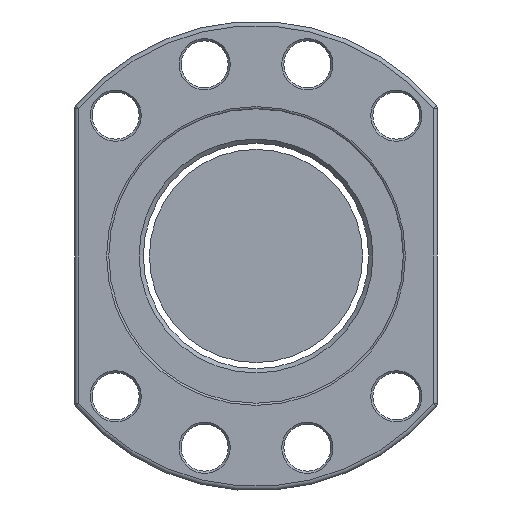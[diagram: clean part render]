
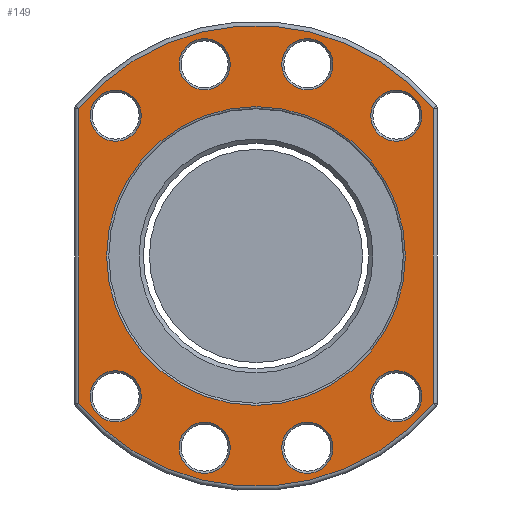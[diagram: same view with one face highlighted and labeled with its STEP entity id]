
A CAD part, front view. The second image highlights one B-rep face of the part: STEP entity #149.
In plain terms, the highlighted planar face has unit normal (0, -1, 0).
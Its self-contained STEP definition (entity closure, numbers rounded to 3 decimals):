
#56=LINE('',#1371,#72);
#57=LINE('',#1375,#73);
#72=VECTOR('',#1070,1.);
#73=VECTOR('',#1073,1.);
#112=PLANE('',#904);
#149=ADVANCED_FACE('',(#238,#239,#240,#241,#242,#243,#244,#245,#246,#247),
#112,.F.);
#238=FACE_BOUND('',#334,.T.);
#239=FACE_BOUND('',#335,.T.);
#240=FACE_BOUND('',#336,.T.);
#241=FACE_BOUND('',#337,.T.);
#242=FACE_BOUND('',#338,.T.);
#243=FACE_BOUND('',#339,.T.);
#244=FACE_BOUND('',#340,.T.);
#245=FACE_BOUND('',#341,.T.);
#246=FACE_BOUND('',#342,.T.);
#247=FACE_BOUND('',#343,.T.);
#334=EDGE_LOOP('',(#454));
#335=EDGE_LOOP('',(#455));
#336=EDGE_LOOP('',(#456));
#337=EDGE_LOOP('',(#457));
#338=EDGE_LOOP('',(#458));
#339=EDGE_LOOP('',(#459));
#340=EDGE_LOOP('',(#460));
#341=EDGE_LOOP('',(#461));
#342=EDGE_LOOP('',(#462));
#343=EDGE_LOOP('',(#463,#464,#465,#466));
#454=ORIENTED_EDGE('',*,*,#713,.T.);
#455=ORIENTED_EDGE('',*,*,#714,.T.);
#456=ORIENTED_EDGE('',*,*,#715,.T.);
#457=ORIENTED_EDGE('',*,*,#716,.T.);
#458=ORIENTED_EDGE('',*,*,#717,.T.);
#459=ORIENTED_EDGE('',*,*,#718,.T.);
#460=ORIENTED_EDGE('',*,*,#719,.T.);
#461=ORIENTED_EDGE('',*,*,#720,.T.);
#462=ORIENTED_EDGE('',*,*,#721,.T.);
#463=ORIENTED_EDGE('',*,*,#722,.T.);
#464=ORIENTED_EDGE('',*,*,#723,.T.);
#465=ORIENTED_EDGE('',*,*,#724,.T.);
#466=ORIENTED_EDGE('',*,*,#725,.T.);
#642=VERTEX_POINT('',#1351);
#643=VERTEX_POINT('',#1353);
#644=VERTEX_POINT('',#1355);
#645=VERTEX_POINT('',#1357);
#646=VERTEX_POINT('',#1359);
#647=VERTEX_POINT('',#1361);
#648=VERTEX_POINT('',#1363);
#649=VERTEX_POINT('',#1365);
#650=VERTEX_POINT('',#1367);
#651=VERTEX_POINT('',#1369);
#652=VERTEX_POINT('',#1370);
#653=VERTEX_POINT('',#1372);
#654=VERTEX_POINT('',#1374);
#713=EDGE_CURVE('',#642,#642,#808,.T.);
#714=EDGE_CURVE('',#643,#643,#809,.T.);
#715=EDGE_CURVE('',#644,#644,#810,.T.);
#716=EDGE_CURVE('',#645,#645,#811,.T.);
#717=EDGE_CURVE('',#646,#646,#812,.T.);
#718=EDGE_CURVE('',#647,#647,#813,.T.);
#719=EDGE_CURVE('',#648,#648,#814,.T.);
#720=EDGE_CURVE('',#649,#649,#815,.T.);
#721=EDGE_CURVE('',#650,#650,#816,.T.);
#722=EDGE_CURVE('',#651,#652,#817,.T.);
#723=EDGE_CURVE('',#652,#653,#56,.T.);
#724=EDGE_CURVE('',#653,#654,#818,.T.);
#725=EDGE_CURVE('',#654,#651,#57,.T.);
#808=CIRCLE('',#893,35.);
#809=CIRCLE('',#894,6.);
#810=CIRCLE('',#895,6.);
#811=CIRCLE('',#896,6.);
#812=CIRCLE('',#897,6.);
#813=CIRCLE('',#898,6.);
#814=CIRCLE('',#899,6.);
#815=CIRCLE('',#900,6.);
#816=CIRCLE('',#901,6.);
#817=CIRCLE('',#902,54.);
#818=CIRCLE('',#903,54.);
#893=AXIS2_PLACEMENT_3D('',#1350,#1050,#1051);
#894=AXIS2_PLACEMENT_3D('',#1352,#1052,#1053);
#895=AXIS2_PLACEMENT_3D('',#1354,#1054,#1055);
#896=AXIS2_PLACEMENT_3D('',#1356,#1056,#1057);
#897=AXIS2_PLACEMENT_3D('',#1358,#1058,#1059);
#898=AXIS2_PLACEMENT_3D('',#1360,#1060,#1061);
#899=AXIS2_PLACEMENT_3D('',#1362,#1062,#1063);
#900=AXIS2_PLACEMENT_3D('',#1364,#1064,#1065);
#901=AXIS2_PLACEMENT_3D('',#1366,#1066,#1067);
#902=AXIS2_PLACEMENT_3D('',#1368,#1068,#1069);
#903=AXIS2_PLACEMENT_3D('',#1373,#1071,#1072);
#904=AXIS2_PLACEMENT_3D('',#1376,#1074,#1075);
#1050=DIRECTION('',(0.,1.,0.));
#1051=DIRECTION('',(0.,0.,1.));
#1052=DIRECTION('',(0.,1.,0.));
#1053=DIRECTION('',(0.,0.,1.));
#1054=DIRECTION('',(0.,1.,0.));
#1055=DIRECTION('',(0.,0.,1.));
#1056=DIRECTION('',(0.,1.,0.));
#1057=DIRECTION('',(0.,0.,1.));
#1058=DIRECTION('',(0.,1.,0.));
#1059=DIRECTION('',(0.,0.,1.));
#1060=DIRECTION('',(0.,1.,0.));
#1061=DIRECTION('',(0.,0.,1.));
#1062=DIRECTION('',(0.,1.,0.));
#1063=DIRECTION('',(0.,0.,1.));
#1064=DIRECTION('',(0.,1.,0.));
#1065=DIRECTION('',(0.,0.,1.));
#1066=DIRECTION('',(0.,1.,0.));
#1067=DIRECTION('',(0.,0.,1.));
#1068=DIRECTION('',(0.,-1.,0.));
#1069=DIRECTION('',(0.,0.,1.));
#1070=DIRECTION('',(0.,0.,1.));
#1071=DIRECTION('',(0.,-1.,0.));
#1072=DIRECTION('',(0.,0.,1.));
#1073=DIRECTION('',(0.,0.,-1.));
#1074=DIRECTION('',(0.,1.,0.));
#1075=DIRECTION('',(0.,0.,1.));
#1350=CARTESIAN_POINT('',(0.,0.,0.));
#1351=CARTESIAN_POINT('',(0.,0.,35.));
#1352=CARTESIAN_POINT('',(-12.035,0.,44.916));
#1353=CARTESIAN_POINT('',(-12.035,0.,50.916));
#1354=CARTESIAN_POINT('',(12.035,0.,44.916));
#1355=CARTESIAN_POINT('',(12.035,0.,50.916));
#1356=CARTESIAN_POINT('',(-12.035,0.,-44.916));
#1357=CARTESIAN_POINT('',(-12.035,0.,-38.916));
#1358=CARTESIAN_POINT('',(32.88,0.,32.88));
#1359=CARTESIAN_POINT('',(32.88,0.,38.88));
#1360=CARTESIAN_POINT('',(-32.88,0.,32.88));
#1361=CARTESIAN_POINT('',(-32.88,0.,38.88));
#1362=CARTESIAN_POINT('',(12.035,0.,-44.916));
#1363=CARTESIAN_POINT('',(12.035,0.,-38.916));
#1364=CARTESIAN_POINT('',(32.88,0.,-32.88));
#1365=CARTESIAN_POINT('',(32.88,0.,-26.88));
#1366=CARTESIAN_POINT('',(-32.88,0.,-32.88));
#1367=CARTESIAN_POINT('',(-32.88,0.,-26.88));
#1368=CARTESIAN_POINT('',(0.,0.,0.));
#1369=CARTESIAN_POINT('',(-41.5,0.,-34.551));
#1370=CARTESIAN_POINT('',(41.5,0.,-34.551));
#1371=CARTESIAN_POINT('',(41.5,0.,33.313));
#1372=CARTESIAN_POINT('',(41.5,0.,34.551));
#1373=CARTESIAN_POINT('',(0.,0.,0.));
#1374=CARTESIAN_POINT('',(-41.5,0.,34.551));
#1375=CARTESIAN_POINT('',(-41.5,0.,-33.313));
#1376=CARTESIAN_POINT('',(0.,0.,0.));
